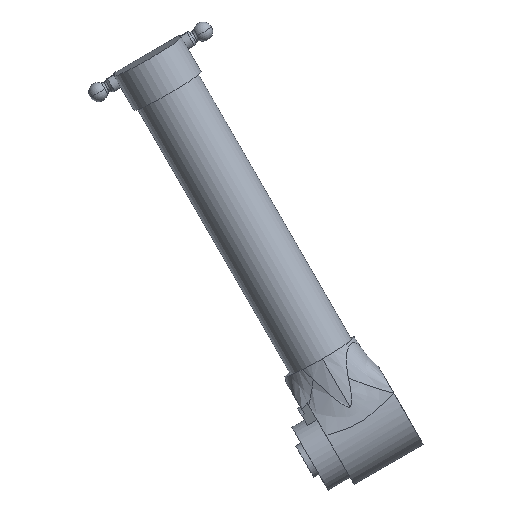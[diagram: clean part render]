
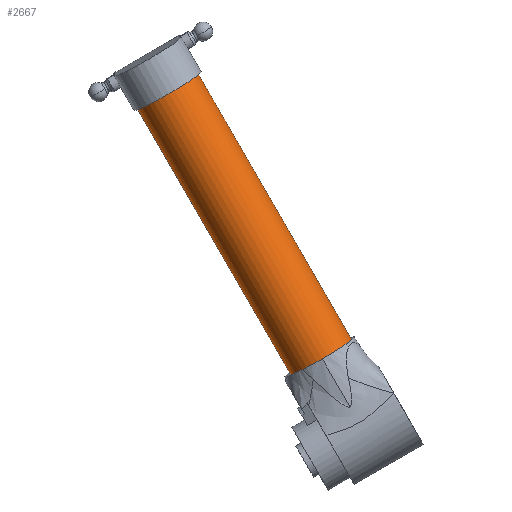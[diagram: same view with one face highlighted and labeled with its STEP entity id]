
A CAD part, top view. The second image highlights one B-rep face of the part: STEP entity #2667.
In plain terms, the highlighted cylindrical face has radius 29 mm (diameter 58 mm), a partial arc.
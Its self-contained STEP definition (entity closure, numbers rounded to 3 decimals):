
#27 = LINE ( 'NONE', #3994, #1047 ) ;
#42 = CARTESIAN_POINT ( 'NONE',  ( -120.19, 208.176, -271.89 ) ) ;
#44 = EDGE_CURVE ( 'NONE', #1439, #2896, #783, .T. ) ;
#118 = CYLINDRICAL_SURFACE ( 'NONE', #2289, 29. ) ;
#124 = AXIS2_PLACEMENT_3D ( 'NONE', #42, #3439, #665 ) ;
#162 = ORIENTED_EDGE ( 'NONE', *, *, #2570, .T. ) ;
#297 = LINE ( 'NONE', #1899, #602 ) ;
#342 = CARTESIAN_POINT ( 'NONE',  ( -245.63, 483.443, -248.698 ) ) ;
#394 = DIRECTION ( 'NONE',  ( -0.866, -0.5, 0. ) ) ;
#602 = VECTOR ( 'NONE', #2515, 1000. ) ;
#617 = CARTESIAN_POINT ( 'NONE',  ( -95.075, 222.676, -271.89 ) ) ;
#665 = DIRECTION ( 'NONE',  ( -0.866, -0.5, 0. ) ) ;
#783 = CIRCLE ( 'NONE', #3172, 29. ) ;
#990 = CARTESIAN_POINT ( 'NONE',  ( -145.305, 193.676, -271.89 ) ) ;
#1002 = ORIENTED_EDGE ( 'NONE', *, *, #44, .F. ) ;
#1029 = FACE_OUTER_BOUND ( 'NONE', #2359, .T. ) ;
#1047 = VECTOR ( 'NONE', #1876, 1000. ) ;
#1048 = DIRECTION ( 'NONE',  ( 0.499, -0.863, -0.077 ) ) ;
#1090 = VERTEX_POINT ( 'NONE', #990 ) ;
#1174 = ORIENTED_EDGE ( 'NONE', *, *, #2531, .F. ) ;
#1439 = VERTEX_POINT ( 'NONE', #3848 ) ;
#1662 = VERTEX_POINT ( 'NONE', #617 ) ;
#1876 = DIRECTION ( 'NONE',  ( 0.499, -0.863, -0.077 ) ) ;
#1898 = DIRECTION ( 'NONE',  ( -0.499, 0.863, 0.077 ) ) ;
#1899 = CARTESIAN_POINT ( 'NONE',  ( -295.859, 454.443, -248.698 ) ) ;
#2062 = EDGE_CURVE ( 'NONE', #1439, #1090, #297, .T. ) ;
#2289 = AXIS2_PLACEMENT_3D ( 'NONE', #2631, #1048, #2301 ) ;
#2301 = DIRECTION ( 'NONE',  ( 0.866, 0.5, 0. ) ) ;
#2359 = EDGE_LOOP ( 'NONE', ( #1002, #3242, #162, #1174 ) ) ;
#2515 = DIRECTION ( 'NONE',  ( 0.499, -0.863, -0.077 ) ) ;
#2531 = EDGE_CURVE ( 'NONE', #2896, #1662, #27, .T. ) ;
#2570 = EDGE_CURVE ( 'NONE', #1090, #1662, #3118, .T. ) ;
#2631 = CARTESIAN_POINT ( 'NONE',  ( -270.744, 468.943, -248.698 ) ) ;
#2667 = ADVANCED_FACE ( 'NONE', ( #1029 ), #118, .T. ) ;
#2896 = VERTEX_POINT ( 'NONE', #342 ) ;
#3118 = CIRCLE ( 'NONE', #124, 29. ) ;
#3172 = AXIS2_PLACEMENT_3D ( 'NONE', #3800, #1898, #394 ) ;
#3242 = ORIENTED_EDGE ( 'NONE', *, *, #2062, .T. ) ;
#3439 = DIRECTION ( 'NONE',  ( -0.499, 0.863, 0.077 ) ) ;
#3800 = CARTESIAN_POINT ( 'NONE',  ( -270.744, 468.943, -248.698 ) ) ;
#3848 = CARTESIAN_POINT ( 'NONE',  ( -295.859, 454.443, -248.698 ) ) ;
#3994 = CARTESIAN_POINT ( 'NONE',  ( -245.63, 483.443, -248.698 ) ) ;
